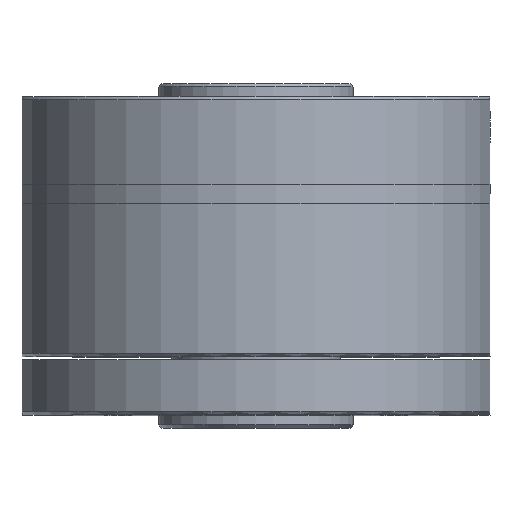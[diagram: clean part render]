
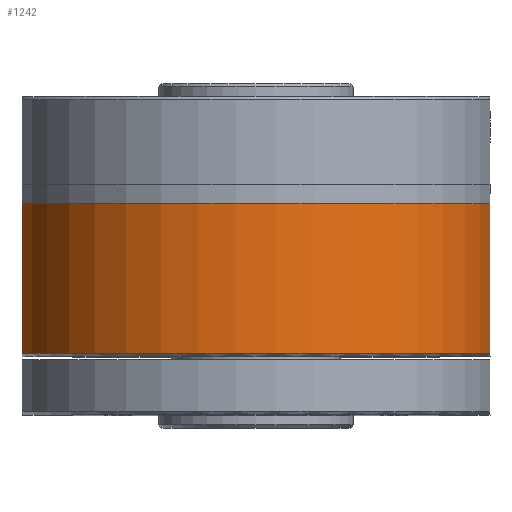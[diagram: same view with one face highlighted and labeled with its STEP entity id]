
A CAD part, top view. The second image highlights one B-rep face of the part: STEP entity #1242.
In plain terms, the highlighted cylindrical face has radius 36.5 mm (diameter 73 mm), a partial arc.
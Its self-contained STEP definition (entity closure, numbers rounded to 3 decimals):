
#50 = CARTESIAN_POINT ( 'NONE',  ( -36., -41.5, 6.021 ) ) ;
#348 = ORIENTED_EDGE ( 'NONE', *, *, #4646, .T. ) ;
#388 = VERTEX_POINT ( 'NONE', #848 ) ;
#490 = EDGE_CURVE ( 'NONE', #3630, #5444, #513, .T. ) ;
#513 = LINE ( 'NONE', #2324, #4088 ) ;
#554 = CARTESIAN_POINT ( 'NONE',  ( 0., -41.5, 0. ) ) ;
#686 = ORIENTED_EDGE ( 'NONE', *, *, #1160, .T. ) ;
#705 = CYLINDRICAL_SURFACE ( 'NONE', #4827, 36.5 ) ;
#765 = CARTESIAN_POINT ( 'NONE',  ( 36., -41.5, 6.021 ) ) ;
#848 = CARTESIAN_POINT ( 'NONE',  ( -36., -18.5, 6.021 ) ) ;
#924 = AXIS2_PLACEMENT_3D ( 'NONE', #3164, #2683, #1013 ) ;
#1013 = DIRECTION ( 'NONE',  ( 1., 0., 0. ) ) ;
#1160 = EDGE_CURVE ( 'NONE', #2916, #3630, #1935, .T. ) ;
#1242 = ADVANCED_FACE ( 'NONE', ( #2458 ), #705, .T. ) ;
#1248 = CARTESIAN_POINT ( 'NONE',  ( 0., -1000., 0. ) ) ;
#1832 = DIRECTION ( 'NONE',  ( 0., 1., 0. ) ) ;
#1935 = CIRCLE ( 'NONE', #5091, 36.5 ) ;
#2189 = CARTESIAN_POINT ( 'NONE',  ( -36., -1000., 6.021 ) ) ;
#2223 = ORIENTED_EDGE ( 'NONE', *, *, #5322, .T. ) ;
#2324 = CARTESIAN_POINT ( 'NONE',  ( 36., -1000., 6.021 ) ) ;
#2458 = FACE_OUTER_BOUND ( 'NONE', #4044, .T. ) ;
#2683 = DIRECTION ( 'NONE',  ( 0., -1., 0. ) ) ;
#2720 = VECTOR ( 'NONE', #3916, 1000. ) ;
#2916 = VERTEX_POINT ( 'NONE', #50 ) ;
#3137 = DIRECTION ( 'NONE',  ( -1., 0., 0. ) ) ;
#3164 = CARTESIAN_POINT ( 'NONE',  ( 0., -18.5, 0. ) ) ;
#3312 = DIRECTION ( 'NONE',  ( 0., -1., 0. ) ) ;
#3350 = CIRCLE ( 'NONE', #924, 36.5 ) ;
#3597 = DIRECTION ( 'NONE',  ( 0., 1., 0. ) ) ;
#3630 = VERTEX_POINT ( 'NONE', #765 ) ;
#3916 = DIRECTION ( 'NONE',  ( 0., -1., 0. ) ) ;
#4044 = EDGE_LOOP ( 'NONE', ( #348, #686, #4378, #2223 ) ) ;
#4088 = VECTOR ( 'NONE', #3597, 1000. ) ;
#4183 = DIRECTION ( 'NONE',  ( 1., 0., 0. ) ) ;
#4378 = ORIENTED_EDGE ( 'NONE', *, *, #490, .T. ) ;
#4646 = EDGE_CURVE ( 'NONE', #388, #2916, #5245, .T. ) ;
#4685 = CARTESIAN_POINT ( 'NONE',  ( 36., -18.5, 6.021 ) ) ;
#4827 = AXIS2_PLACEMENT_3D ( 'NONE', #1248, #3312, #4183 ) ;
#5091 = AXIS2_PLACEMENT_3D ( 'NONE', #554, #1832, #3137 ) ;
#5245 = LINE ( 'NONE', #2189, #2720 ) ;
#5322 = EDGE_CURVE ( 'NONE', #5444, #388, #3350, .T. ) ;
#5444 = VERTEX_POINT ( 'NONE', #4685 ) ;
